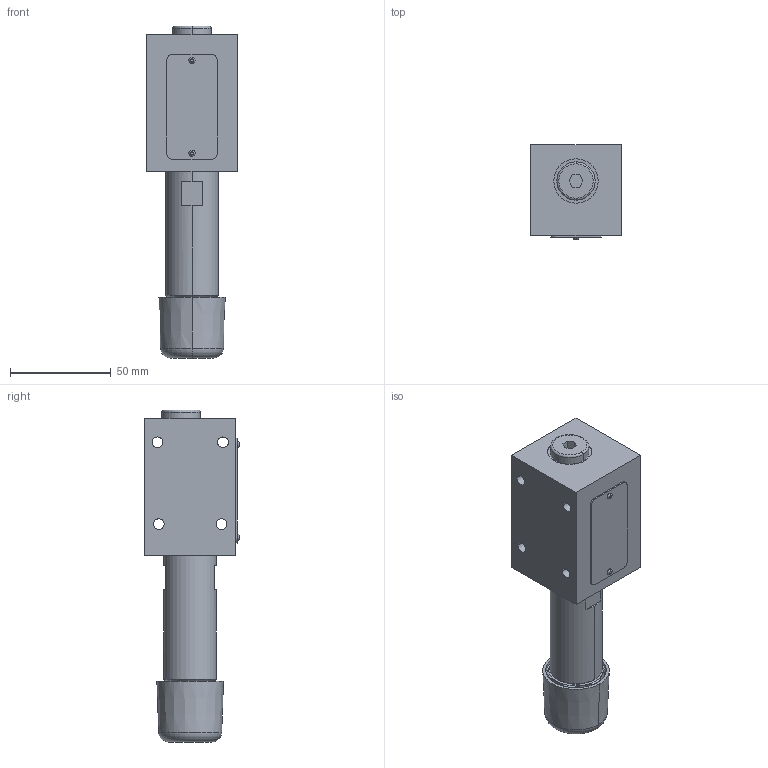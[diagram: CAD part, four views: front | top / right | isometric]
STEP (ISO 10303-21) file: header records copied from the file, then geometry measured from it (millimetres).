
FILE_DESCRIPTION((''),'2;1');
FILE_NAME('VRN2_06_MP','2011-03-14T',('tvatras'),(''),'PRO/ENGINEER BY PARAMETRIC TECHNOLOGY CORPORATION, 2010180','PRO/ENGINEER BY PARAMETRIC TECHNOLOGY CORPORATION, 2010180','');
FILE_SCHEMA(('CONFIG_CONTROL_DESIGN'));
Length unit declared in the file: millimetre
Products named in the file (1): VRN2_06_MP
Bounding box: 45 x 46.8 x 164.5 mm (x, y, z)
Surface area: 33027.2 mm2 (no closed solid volume)
Topology: 0 solids, 4 shells, 139 faces, 367 edges, 241 vertices
Faces by surface type: plane 57, cylinder 42, cone 28, torus 8, bspline 4
Entity records: 4799 total; most frequent: CARTESIAN_POINT 1307, DIRECTION 741, ORIENTED_EDGE 680, EDGE_CURVE 364, AXIS2_PLACEMENT_3D 297, VERTEX_POINT 239, EDGE_LOOP 165, CIRCLE 160
